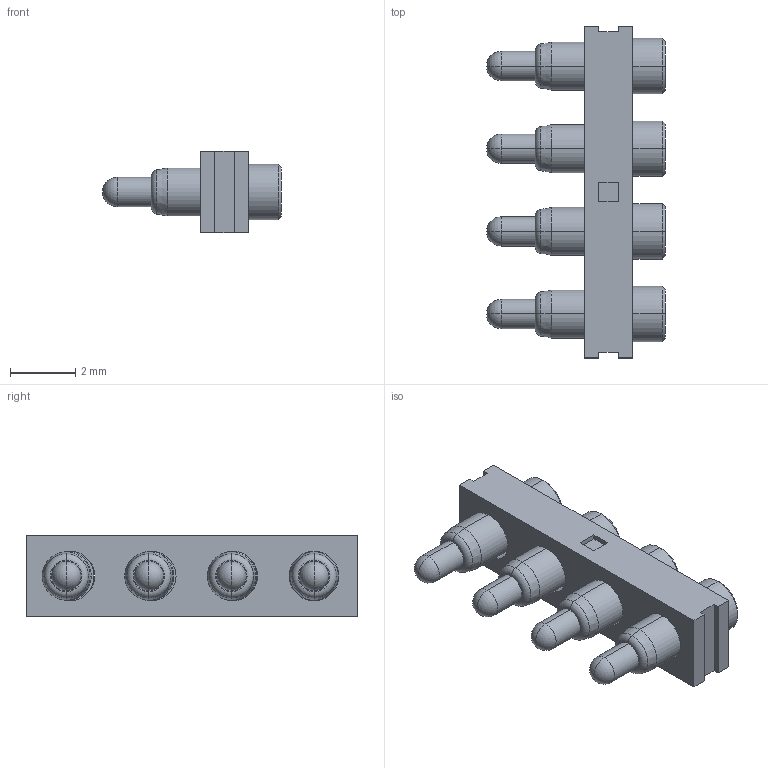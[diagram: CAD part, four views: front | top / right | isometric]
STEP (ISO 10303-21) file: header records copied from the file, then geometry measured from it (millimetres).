
FILE_DESCRIPTION((''),'2;1');
FILE_NAME('ASM0005_ASM','2023-06-07T14:45:41',('USER'),(''),'CREO PARAMETRIC BY PTC INC, 2020154','CREO PARAMETRIC BY PTC INC, 2020154','');
FILE_SCHEMA(('CONFIG_CONTROL_DESIGN'));
Length unit declared in the file: millimetre
Products named in the file (3): PRT0011; PRT0010; ASM0005_ASM
Assembly tree (5 placements, depth 2):
  ASM0005_ASM
    PRT0011
    PRT0010  x4
Bounding box: 5.5 x 10.2 x 2.5 mm (x, y, z)
Volume: 59.2 mm3; surface area: 211.5 mm2
Topology: 5 solids, 5 shells, 128 faces, 276 edges, 164 vertices
Faces by surface type: cylinder 48, plane 40, cone 24, torus 8, sphere 8
Entity records: 1720 total; most frequent: DIRECTION 304, CARTESIAN_POINT 277, ORIENTED_EDGE 260, EDGE_CURVE 130, AXIS2_PLACEMENT_3D 110, VECTOR 84, LINE 84, VERTEX_POINT 83
